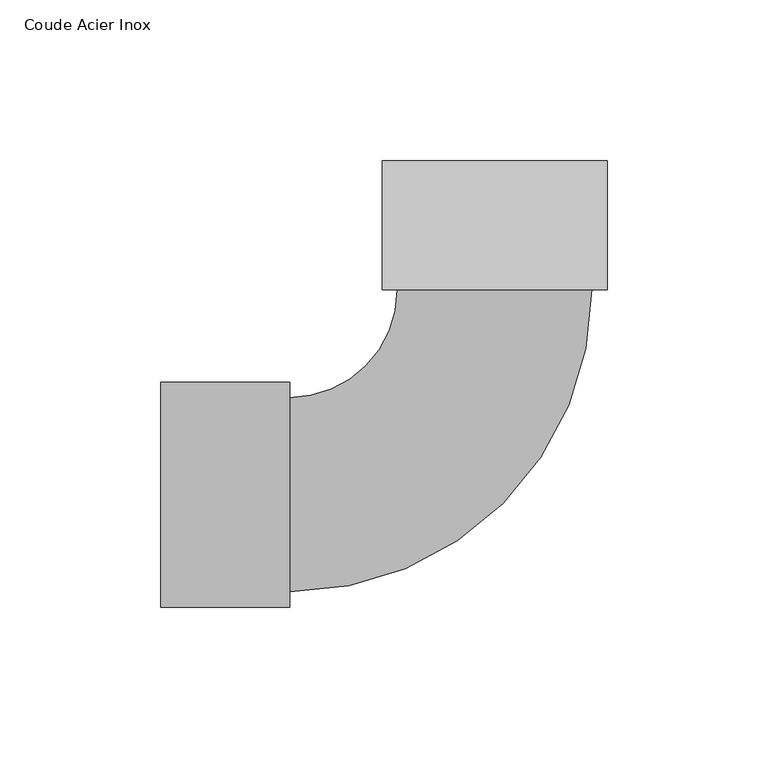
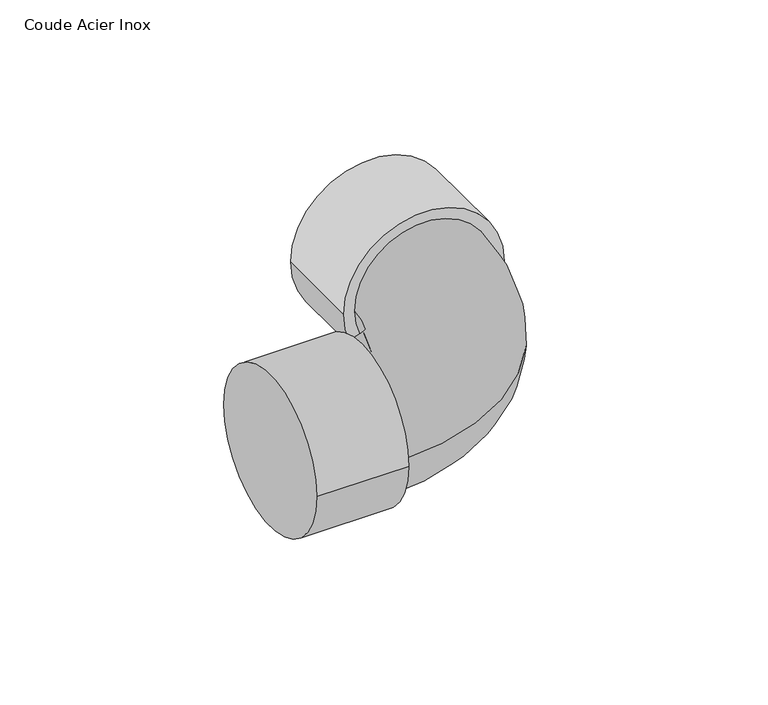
"""IFC4 building model written with IfcOpenShell, lengths in millimetres: pipe fitting geometry, Coude Acier Inox : Norme EN ISO 1127 Courbure = 3D."""

from ifc_helpers import new_model, si_unit, point, frame, frame_2d, origin, origin_2d, place, context, project, spatial, circle_curve, ellipse_curve, trimmed, segment, composite_curve, outline, extrude, source, transform, mapped, element, save
from ifc_brep_helpers import plane_surface, revolved_surface, advanced_brep


def coude_acier_inox_8707cc99(model_context):
    return source(origin(), model_context, "Body", "SolidModel", [
        advanced_brep(
        [(100.8113453, 63.6396103, 0.0), (161.1113453, 63.6396103, 0.0), (67.321735, 30.15, 0.0), (67.321735, -30.15, 0.0)],
        [
            (0, 1, circle_curve(frame((130.9613453, 63.6396103, 0.0), z_axis=(0.0, 1.0, 0.0), x_axis=(1.0, 0.0, 0.0)), 30.15)),
            (1, 0, circle_curve(frame((130.9613453, 63.6396103, 0.0), z_axis=(0.0, 1.0, 0.0), x_axis=(1.0, 0.0, 0.0)), 30.15)),
            (2, 3, circle_curve(frame((67.321735, 0.0, 0.0), z_axis=(-1.0, 0.0, 0.0), x_axis=(0.0, -1.0, 0.0)), 30.15)),
            (3, 2, circle_curve(frame((67.321735, 0.0, 0.0), z_axis=(-1.0, 0.0, 0.0), x_axis=(0.0, -1.0, 0.0)), 30.15)),
            (3, 1, circle_curve(frame((67.321735, 63.6396103, 0.0), z_axis=(0.0, 0.0, 1.0), x_axis=(1.0, 0.0, 0.0)), 93.7896103)),
            (0, 2, circle_curve(frame((67.321735, 63.6396103, 0.0), z_axis=(0.0, 0.0, -1.0), x_axis=(1.0, 0.0, 0.0)), 33.4896103)),
        ],
        [
            plane_surface(frame((130.9613453, 63.6396103, 0.0), z_axis=(0.0, 1.0, 0.0), x_axis=(0.0, 0.0, 1.0))),
            plane_surface(frame((67.321735, 0.0, 0.0), z_axis=(-1.0, 0.0, 0.0), x_axis=(0.0, 0.0, 1.0))),
            revolved_surface(trimmed(ellipse_curve(frame((130.9613453, 63.6396103, 0.0), z_axis=(0.0, 1.0, 0.0), x_axis=(1.0, 0.0, 0.0)), 30.15, 30.15), [point((100.8113453, 63.6396103, 0.0))], [point((161.1113453, 63.6396103, 0.0))], True, "CARTESIAN"), (67.321735, 63.6396103, 0.0), (0.0, 0.0, -1.0)),
            revolved_surface(trimmed(ellipse_curve(frame((130.9613453, 63.6396103, 0.0), z_axis=(0.0, 1.0, 0.0), x_axis=(1.0, 0.0, 0.0)), 30.15, 30.15), [point((161.1113453, 63.6396103, 0.0))], [point((100.8113453, 63.6396103, 0.0))], True, "CARTESIAN"), (67.321735, 63.6396103, 0.0), (0.0, 0.0, -1.0)),
        ],
        [
            (0, [[1, 2]]),
            (1, [[3, 4]]),
            (2, [[5, -1, 6, -4]]),
            (3, [[-6, -2, -5, -3]]),
        ],
    ),
        extrude(outline(composite_curve([segment(trimmed(circle_curve(frame_2d((0.0, 130.9613453)), 34.95), [point((0.0, 165.9113453))], [point((0.0, 96.0113453))], False, "CARTESIAN"), True, "CONTINUOUS"), segment(trimmed(circle_curve(frame_2d((0.0, 130.9613453)), 34.95), [point((0.0, 96.0113453))], [point((0.0, 165.9113453))], False, "CARTESIAN"), True, "CONTINUOUS")], self_intersect=False)), frame((0.0, 63.6396103, 0.0), z_axis=(0.0, 1.0, 0.0), x_axis=(0.0, 0.0, 1.0)), (0.0, 0.0, 1.0), 40.0),
        extrude(outline(composite_curve([segment(trimmed(circle_curve(origin_2d(), 34.95), [point((-34.95, 0.0))], [point((34.95, 0.0))], False, "CARTESIAN"), True, "CONTINUOUS"), segment(trimmed(circle_curve(origin_2d(), 34.95), [point((34.95, 0.0))], [point((-34.95, 0.0))], False, "CARTESIAN"), True, "CONTINUOUS")], self_intersect=False)), frame((27.321735, 0.0, 0.0), z_axis=(1.0, 0.0, 0.0), x_axis=(0.0, 1.0, 0.0)), (0.0, 0.0, 1.0), 40.0),
    ])


if __name__ == "__main__":
    model = new_model("IFC4")
    model_context = context("Model", 3, world=origin())
    ifc_project = project(units=[si_unit("LENGTHUNIT", "METRE", prefix="MILLI")], contexts=[model_context])
    site = spatial("IfcSite", under=ifc_project)
    building = spatial("IfcBuilding", under=site)
    placement = place(None, origin())
    coude_acier_inox_shape = coude_acier_inox_8707cc99(model_context)
    element("IfcPipeFitting", 1, ObjectType="Coude Acier Inox : Norme EN ISO 1127 Courbure = 3D", at=placement, inside=building, context=model_context, shape_type="MappedRepresentation", body=[
        mapped(coude_acier_inox_shape, transform((0.0, 0.0, 0.0), x_axis=(1.0, 0.0, 0.0), y_axis=(0.0, 1.0, 0.0), z_axis=(0.0, 0.0, 1.0))),
    ])
    save(model, "model.ifc")
